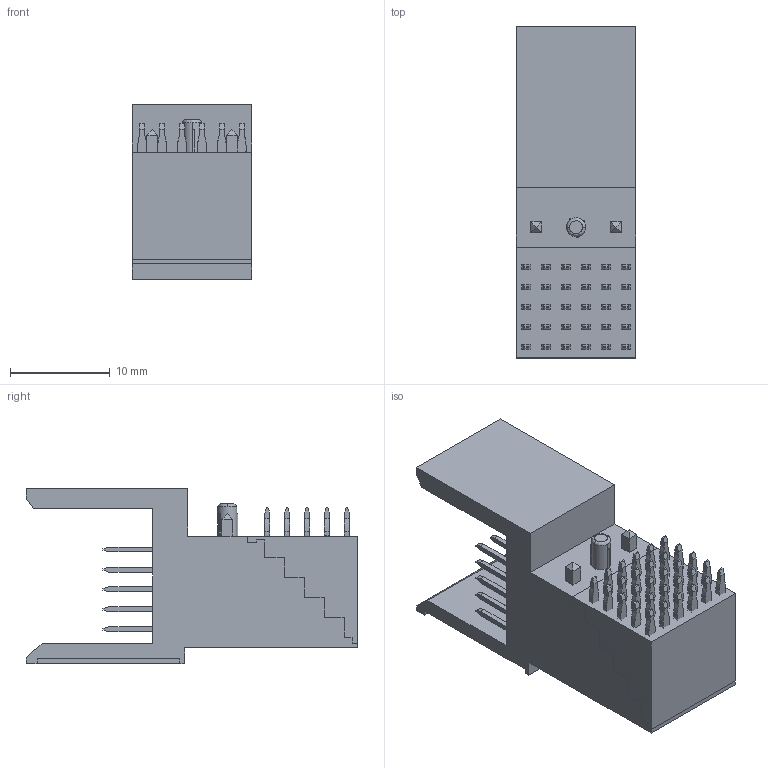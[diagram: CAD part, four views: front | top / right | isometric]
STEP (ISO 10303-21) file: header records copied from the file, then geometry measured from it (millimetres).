
FILE_DESCRIPTION (( 'STEP AP214' ), '1' );
FILE_NAME ('9111-5530A1C10PU.STEP', '2016-10-20T08:27:39', ( 'RD02' ), ( '' ), 'SwSTEP 2.0', 'SolidWorks 2011', '' );
FILE_SCHEMA (( 'AUTOMOTIVE_DESIGN' ));
Length unit declared in the file: millimetre
Products named in the file (8): 9111-5530y3; 9111-454; 9111-453; 9111-452; 9111-451; 9111-455; 9111-55120y; 9111-5530A1C10PU
Assembly tree (32 placements, depth 2):
  9111-5530A1C10PU
    9111-451  x6
    9111-453  x6
    9111-454  x6
    9111-452  x6
    9111-455  x6
    9111-55120y
    9111-5530y3
Bounding box: 11.95 x 33.3 x 17.6 mm (x, y, z)
Volume: 3653 mm3; surface area: 3243.5 mm2
Topology: 62 solids, 62 shells, 663 faces, 1595 edges, 1060 vertices
Faces by surface type: plane 565, cylinder 96, bspline 2
Entity records: 6242 total; most frequent: CARTESIAN_POINT 1132, ORIENTED_EDGE 940, DIRECTION 939, EDGE_CURVE 470, VECTOR 407, LINE 407, VERTEX_POINT 310, AXIS2_PLACEMENT_3D 266
